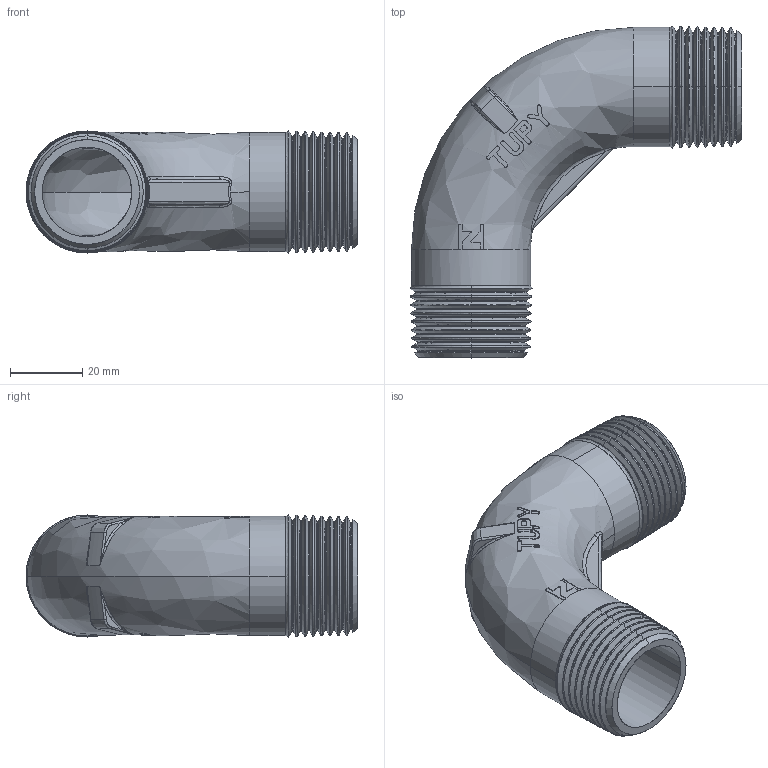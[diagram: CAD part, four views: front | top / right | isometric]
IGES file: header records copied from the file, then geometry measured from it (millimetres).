
Start section: SolidWorks IGES file using analytic representation for surfaces
Global section: file name: C:\Users\Joel Rosa\Desktop\Tubulação\12-25-OK\12-25-007.IGS; native system: SolidWorks 2011; preprocessor: SolidWorks 2011; author: Joel Rosa; date: 121207.021432; units: millimetre
Bounding box: 91.9 x 91.9 x 33.79 mm (x, y, z)
Surface area: 27184.3 mm2 (no closed solid volume)
Topology: 0 solids, 0 shells, 327 faces, 2609 edges, 2605 vertices
Faces by surface type: bspline 238, revolution 89
